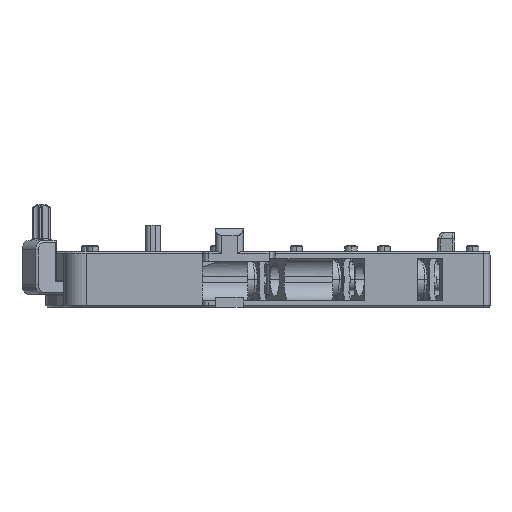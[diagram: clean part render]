
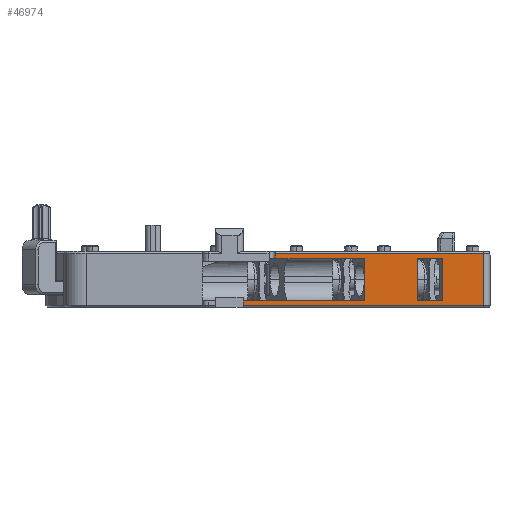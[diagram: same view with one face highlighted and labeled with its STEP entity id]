
A CAD part, left-side view. The second image highlights one B-rep face of the part: STEP entity #46974.
In plain terms, the highlighted planar face has unit normal (-1, 0, 0).
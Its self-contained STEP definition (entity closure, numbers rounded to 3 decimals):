
#932=DIRECTION('',(0.,0.,1.));
#933=VECTOR('',#932,8.05);
#934=CARTESIAN_POINT('',(-46.1,-50.5,-4.));
#935=LINE('',#934,#933);
#950=DIRECTION('',(0.,0.,1.));
#951=VECTOR('',#950,0.123);
#952=CARTESIAN_POINT('',(-46.1,-20.189,3.177));
#953=LINE('',#952,#951);
#954=DIRECTION('',(0.,0.,1.));
#955=VECTOR('',#954,0.75);
#956=CARTESIAN_POINT('',(-46.1,-18.3,3.3));
#957=LINE('',#956,#955);
#958=DIRECTION('',(0.,1.,0.));
#959=VECTOR('',#958,37.2);
#960=CARTESIAN_POINT('',(-46.1,-50.5,-4.));
#961=LINE('',#960,#959);
#962=DIRECTION('',(0.,0.,1.));
#963=VECTOR('',#962,0.7);
#964=CARTESIAN_POINT('',(-46.1,-13.3,-4.));
#965=LINE('',#964,#963);
#966=CARTESIAN_POINT('',(-46.1,-23.168,-3.3));
#967=CARTESIAN_POINT('',(-46.1,-22.173,-3.3));
#968=CARTESIAN_POINT('',(-46.1,-21.18,-3.261));
#969=CARTESIAN_POINT('',(-46.1,-20.189,-3.177));
#971=DIRECTION('',(0.,1.,0.));
#972=VECTOR('',#971,3.799);
#973=CARTESIAN_POINT('',(-46.1,-44.116,-3.3));
#974=LINE('',#973,#972);
#987=DIRECTION('',(0.,0.,-1.));
#988=VECTOR('',#987,6.6);
#989=CARTESIAN_POINT('',(-46.1,-32.152,3.3));
#990=LINE('',#989,#988);
#1362=DIRECTION('',(0.,0.,1.));
#1363=VECTOR('',#1362,0.123);
#1364=CARTESIAN_POINT('',(-46.1,-20.189,-3.3));
#1365=LINE('',#1364,#1363);
#2019=DIRECTION('',(0.,1.,0.));
#2020=VECTOR('',#2019,6.889);
#2021=CARTESIAN_POINT('',(-46.1,-20.189,-3.3));
#2022=LINE('',#2021,#2020);
#2879=DIRECTION('',(0.,1.,0.));
#2880=VECTOR('',#2879,1.889);
#2881=CARTESIAN_POINT('',(-46.1,-20.189,3.3));
#2882=LINE('',#2881,#2880);
#17776=DIRECTION('',(0.,1.,0.));
#17777=VECTOR('',#17776,32.2);
#17778=CARTESIAN_POINT('',(-46.1,-50.5,4.05));
#17779=LINE('',#17778,#17777);
#26955=DIRECTION('',(0.,0.,-1.));
#26956=VECTOR('',#26955,6.6);
#26957=CARTESIAN_POINT('',(-46.1,-44.116,3.3));
#26958=LINE('',#26957,#26956);
#27358=DIRECTION('',(0.,0.,1.));
#27359=VECTOR('',#27358,6.6);
#27360=CARTESIAN_POINT('',(-46.1,-40.317,-3.3));
#27361=LINE('',#27360,#27359);
#27370=DIRECTION('',(0.,1.,0.));
#27371=VECTOR('',#27370,3.799);
#27372=CARTESIAN_POINT('',(-46.1,-44.116,3.3));
#27373=LINE('',#27372,#27371);
#35813=CARTESIAN_POINT('',(-46.1,-20.189,3.177));
#35814=CARTESIAN_POINT('',(-46.1,-21.18,3.261));
#35815=CARTESIAN_POINT('',(-46.1,-22.173,3.3));
#35816=CARTESIAN_POINT('',(-46.1,-23.168,3.3));
#35822=DIRECTION('',(0.,1.,0.));
#35823=VECTOR('',#35822,8.985);
#35824=CARTESIAN_POINT('',(-46.1,-32.152,3.3));
#35825=LINE('',#35824,#35823);
#35855=DIRECTION('',(0.,1.,0.));
#35856=VECTOR('',#35855,8.985);
#35857=CARTESIAN_POINT('',(-46.1,-32.152,-3.3));
#35858=LINE('',#35857,#35856);
#36415=CARTESIAN_POINT('',(-46.1,-44.116,-3.3));
#36416=CARTESIAN_POINT('',(-46.1,-40.317,-3.3));
#36417=VERTEX_POINT('',#36415);
#36418=VERTEX_POINT('',#36416);
#36563=CARTESIAN_POINT('',(-46.1,-32.152,-3.3));
#36565=VERTEX_POINT('',#36563);
#37226=CARTESIAN_POINT('',(-46.1,-13.3,-4.));
#37228=VERTEX_POINT('',#37226);
#37229=CARTESIAN_POINT('',(-46.1,-50.5,-4.));
#37230=VERTEX_POINT('',#37229);
#37265=CARTESIAN_POINT('',(-46.1,-13.3,-3.3));
#37266=VERTEX_POINT('',#37265);
#38097=CARTESIAN_POINT('',(-46.1,-23.168,-3.3));
#38099=VERTEX_POINT('',#38097);
#38111=CARTESIAN_POINT('',(-46.1,-20.189,-3.3));
#38112=VERTEX_POINT('',#38111);
#38113=CARTESIAN_POINT('',(-46.1,-20.189,-3.177));
#38114=VERTEX_POINT('',#38113);
#42326=CARTESIAN_POINT('',(-46.1,-32.152,3.3));
#42327=VERTEX_POINT('',#42326);
#42400=CARTESIAN_POINT('',(-46.1,-44.116,3.3));
#42401=CARTESIAN_POINT('',(-46.1,-40.317,3.3));
#42402=VERTEX_POINT('',#42400);
#42403=VERTEX_POINT('',#42401);
#43352=CARTESIAN_POINT('',(-46.1,-50.5,4.05));
#43353=VERTEX_POINT('',#43352);
#43779=CARTESIAN_POINT('',(-46.1,-23.168,3.3));
#43780=VERTEX_POINT('',#43779);
#43781=CARTESIAN_POINT('',(-46.1,-20.189,3.177));
#43782=CARTESIAN_POINT('',(-46.1,-20.189,3.3));
#43783=VERTEX_POINT('',#43781);
#43784=VERTEX_POINT('',#43782);
#44489=CARTESIAN_POINT('',(-46.1,-18.3,3.3));
#44490=VERTEX_POINT('',#44489);
#44491=CARTESIAN_POINT('',(-46.1,-18.3,4.05));
#44492=VERTEX_POINT('',#44491);
#46930=CARTESIAN_POINT('',(-46.1,14.5,-4.3));
#46931=DIRECTION('',(-1.,0.,0.));
#46932=DIRECTION('',(0.,-1.,0.));
#46933=AXIS2_PLACEMENT_3D('',#46930,#46931,#46932);
#46934=PLANE('',#46933);
#46936=ORIENTED_EDGE('',*,*,#46935,.F.);
#46938=ORIENTED_EDGE('',*,*,#46937,.T.);
#46940=ORIENTED_EDGE('',*,*,#46939,.F.);
#46942=ORIENTED_EDGE('',*,*,#46941,.T.);
#46944=ORIENTED_EDGE('',*,*,#46943,.T.);
#46946=ORIENTED_EDGE('',*,*,#46945,.T.);
#46948=ORIENTED_EDGE('',*,*,#46947,.F.);
#46949=ORIENTED_EDGE('',*,*,#46920,.F.);
#46951=ORIENTED_EDGE('',*,*,#46950,.T.);
#46953=ORIENTED_EDGE('',*,*,#46952,.T.);
#46955=ORIENTED_EDGE('',*,*,#46954,.F.);
#46957=ORIENTED_EDGE('',*,*,#46956,.T.);
#46959=ORIENTED_EDGE('',*,*,#46958,.F.);
#46961=ORIENTED_EDGE('',*,*,#46960,.F.);
#46962=EDGE_LOOP('',(#46936,#46938,#46940,#46942,#46944,#46946,#46948,#46949,
#46951,#46953,#46955,#46957,#46959,#46961));
#46963=FACE_OUTER_BOUND('',#46962,.F.);
#46965=ORIENTED_EDGE('',*,*,#46964,.F.);
#46967=ORIENTED_EDGE('',*,*,#46966,.T.);
#46969=ORIENTED_EDGE('',*,*,#46968,.F.);
#46971=ORIENTED_EDGE('',*,*,#46970,.F.);
#46972=EDGE_LOOP('',(#46965,#46967,#46969,#46971));
#46973=FACE_BOUND('',#46972,.F.);
#46974=ADVANCED_FACE('',(#46963,#46973),#46934,.T.);
#970=B_SPLINE_CURVE_WITH_KNOTS('',3,(#966,#967,#968,#969),.UNSPECIFIED.,.F.,.F.,
(4,4),(0.,1.),.UNSPECIFIED.);
#35817=B_SPLINE_CURVE_WITH_KNOTS('',3,(#35813,#35814,#35815,#35816),
.UNSPECIFIED.,.F.,.F.,(4,4),(0.,1.),.UNSPECIFIED.);
#46920=EDGE_CURVE('',#37230,#43353,#935,.T.);
#46935=EDGE_CURVE('',#42327,#36565,#990,.T.);
#46937=EDGE_CURVE('',#42327,#43780,#35825,.T.);
#46939=EDGE_CURVE('',#43783,#43780,#35817,.T.);
#46941=EDGE_CURVE('',#43783,#43784,#953,.T.);
#46943=EDGE_CURVE('',#43784,#44490,#2882,.T.);
#46945=EDGE_CURVE('',#44490,#44492,#957,.T.);
#46947=EDGE_CURVE('',#43353,#44492,#17779,.T.);
#46950=EDGE_CURVE('',#37230,#37228,#961,.T.);
#46952=EDGE_CURVE('',#37228,#37266,#965,.T.);
#46954=EDGE_CURVE('',#38112,#37266,#2022,.T.);
#46956=EDGE_CURVE('',#38112,#38114,#1365,.T.);
#46958=EDGE_CURVE('',#38099,#38114,#970,.T.);
#46960=EDGE_CURVE('',#36565,#38099,#35858,.T.);
#46964=EDGE_CURVE('',#42402,#36417,#26958,.T.);
#46966=EDGE_CURVE('',#42402,#42403,#27373,.T.);
#46968=EDGE_CURVE('',#36418,#42403,#27361,.T.);
#46970=EDGE_CURVE('',#36417,#36418,#974,.T.);
